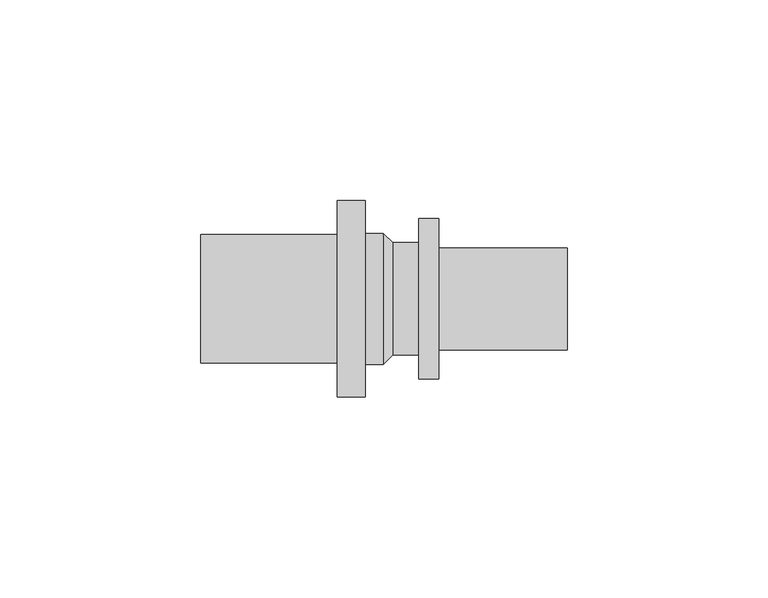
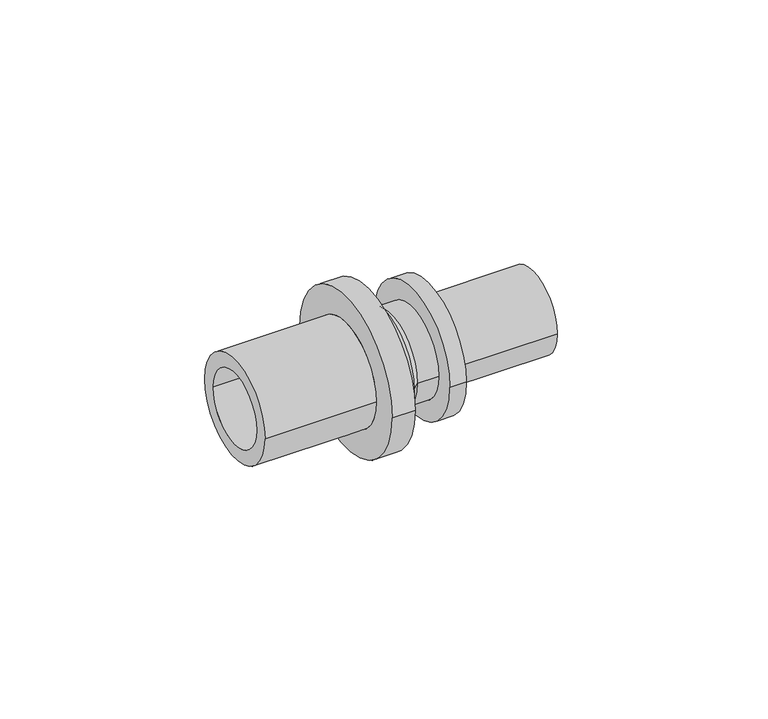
"""IFC4 building model written with IfcOpenShell, lengths in millimetres: pipe fitting geometry, RAUTITAN_Transition_LX : RTI LX Tr DE."""

from ifc_helpers import new_model, si_unit, frame, origin, place, context, project, spatial, polyline, circle_curve, source, transform, mapped, element, save
from ifc_brep_helpers import plane_surface, cylinder_surface, revolved_surface, advanced_brep


def pipe_fitting_efe7aa76(model_context):
    return source(origin(), model_context, "Body", "AdvancedBrep", [
        advanced_brep(
        [(-46.65, 11.5, 0.0), (-46.65, -11.5, 0.0), (-0.75, -11.5, 0.0), (-0.75, 11.5, 0.0), (-1.15, 16.3, 0.0), (-1.15, -16.3, 0.0), (-5.65, -16.3, 0.0), (-5.65, 16.3, 0.0), (1.15, 14.0, 0.0), (1.15, -14.0, 0.0), (7.65, 14.0, 0.0), (7.65, -14.0, 0.0), (12.65, 20.0, 0.0), (12.65, -20.0, 0.0), (7.65, -20.0, 0.0), (7.65, 20.0, 0.0), (44.65, 12.7, 0.0), (44.65, -12.7, 0.0), (12.65, -12.7, 0.0), (12.65, 12.7, 0.0), (0.75, 10.0, 0.0), (0.75, -10.0, 0.0), (44.65, -10.0, 0.0), (44.65, 10.0, 0.0), (-5.65, 24.5, 0.0), (-5.65, -24.5, 0.0), (-12.65, 16.0, 0.0), (-12.65, -16.0, 0.0), (-46.65, -16.0, 0.0), (-46.65, 16.0, 0.0), (-12.65, -24.5, 0.0), (-12.65, 24.5, 0.0)],
        [
            (0, 1, circle_curve(frame((-46.65, 0.0, 0.0), z_axis=(-1.0, 0.0, 0.0), x_axis=(0.0, -1.0, 0.0)), 11.5)),
            (1, 2),
            (2, 3, circle_curve(frame((-0.75, 0.0, 0.0), z_axis=(1.0, 0.0, 0.0), x_axis=(0.0, -1.0, 0.0)), 11.5)),
            (3, 0),
            (4, 5, circle_curve(frame((-1.15, 0.0, 0.0), z_axis=(-1.0, 0.0, 0.0), x_axis=(0.0, -1.0, 0.0)), 16.3)),
            (5, 6),
            (6, 7, circle_curve(frame((-5.65, 0.0, 0.0), z_axis=(1.0, 0.0, 0.0), x_axis=(0.0, -1.0, 0.0)), 16.3)),
            (7, 4),
            (8, 9, circle_curve(frame((1.15, 0.0, 0.0), z_axis=(-1.0, 0.0, 0.0), x_axis=(0.0, -1.0, 0.0)), 14.0)),
            (9, 5),
            (4, 8),
            (10, 11, circle_curve(frame((7.65, 0.0, 0.0), z_axis=(-1.0, 0.0, 0.0), x_axis=(0.0, -1.0, 0.0)), 14.0)),
            (11, 9),
            (8, 10),
            (12, 13, circle_curve(frame((12.65, 0.0, 0.0), z_axis=(-1.0, 0.0, 0.0), x_axis=(0.0, -1.0, 0.0)), 20.0)),
            (13, 14),
            (14, 15, circle_curve(frame((7.65, 0.0, 0.0), z_axis=(1.0, 0.0, 0.0), x_axis=(0.0, -1.0, 0.0)), 20.0)),
            (15, 12),
            (16, 17, circle_curve(frame((44.65, 0.0, 0.0), z_axis=(-1.0, 0.0, 0.0), x_axis=(0.0, -1.0, 0.0)), 12.7)),
            (17, 18),
            (18, 19, circle_curve(frame((12.65, 0.0, 0.0), z_axis=(1.0, 0.0, 0.0), x_axis=(0.0, -1.0, 0.0)), 12.7)),
            (19, 16),
            (20, 21, circle_curve(frame((0.75, 0.0, 0.0), z_axis=(-1.0, 0.0, 0.0), x_axis=(0.0, -1.0, 0.0)), 10.0)),
            (21, 22),
            (22, 23, circle_curve(frame((44.65, 0.0, 0.0), z_axis=(1.0, 0.0, 0.0), x_axis=(0.0, -1.0, 0.0)), 10.0)),
            (23, 20),
            (2, 21),
            (20, 3),
            (1, 0, circle_curve(frame((-46.65, 0.0, 0.0), z_axis=(-1.0, 0.0, 0.0), x_axis=(0.0, 1.0, 0.0)), 11.5)),
            (3, 2, circle_curve(frame((-0.75, 0.0, 0.0), z_axis=(1.0, 0.0, 0.0), x_axis=(0.0, 1.0, 0.0)), 11.5)),
            (24, 25, circle_curve(frame((-5.65, 0.0, 0.0), z_axis=(1.0, 0.0, 0.0), x_axis=(0.0, 1.0, 0.0)), 24.5)),
            (25, 24, circle_curve(frame((-5.65, 0.0, 0.0), z_axis=(1.0, 0.0, 0.0), x_axis=(0.0, -1.0, 0.0)), 24.5)),
            (6, 7, circle_curve(frame((-5.65, 0.0, 0.0), z_axis=(-1.0, 0.0, 0.0), x_axis=(0.0, 1.0, 0.0)), 16.3)),
            (5, 4, circle_curve(frame((-1.15, 0.0, 0.0), z_axis=(-1.0, 0.0, 0.0), x_axis=(0.0, 1.0, 0.0)), 16.3)),
            (9, 8, circle_curve(frame((1.15, 0.0, 0.0), z_axis=(-1.0, 0.0, 0.0), x_axis=(0.0, 1.0, 0.0)), 14.0)),
            (11, 10, circle_curve(frame((7.65, 0.0, 0.0), z_axis=(-1.0, 0.0, 0.0), x_axis=(0.0, 1.0, 0.0)), 14.0)),
            (14, 15, circle_curve(frame((7.65, 0.0, 0.0), z_axis=(-1.0, 0.0, 0.0), x_axis=(0.0, 1.0, 0.0)), 20.0)),
            (13, 12, circle_curve(frame((12.65, 0.0, 0.0), z_axis=(-1.0, 0.0, 0.0), x_axis=(0.0, 1.0, 0.0)), 20.0)),
            (18, 19, circle_curve(frame((12.65, 0.0, 0.0), z_axis=(-1.0, 0.0, 0.0), x_axis=(0.0, 1.0, 0.0)), 12.7)),
            (17, 16, circle_curve(frame((44.65, 0.0, 0.0), z_axis=(-1.0, 0.0, 0.0), x_axis=(0.0, 1.0, 0.0)), 12.7)),
            (22, 23, circle_curve(frame((44.65, 0.0, 0.0), z_axis=(-1.0, 0.0, 0.0), x_axis=(0.0, 1.0, 0.0)), 10.0)),
            (21, 20, circle_curve(frame((0.75, 0.0, 0.0), z_axis=(-1.0, 0.0, 0.0), x_axis=(0.0, 1.0, 0.0)), 10.0)),
            (26, 27, circle_curve(frame((-12.65, 0.0, 0.0), z_axis=(-1.0, 0.0, 0.0), x_axis=(0.0, -1.0, 0.0)), 16.0)),
            (27, 28),
            (28, 29, circle_curve(frame((-46.65, 0.0, 0.0), z_axis=(1.0, 0.0, 0.0), x_axis=(0.0, -1.0, 0.0)), 16.0)),
            (29, 26),
            (25, 30),
            (30, 31, circle_curve(frame((-12.65, 0.0, 0.0), z_axis=(1.0, 0.0, 0.0), x_axis=(0.0, -1.0, 0.0)), 24.5)),
            (31, 24),
            (28, 29, circle_curve(frame((-46.65, 0.0, 0.0), z_axis=(-1.0, 0.0, 0.0), x_axis=(0.0, 1.0, 0.0)), 16.0)),
            (27, 26, circle_curve(frame((-12.65, 0.0, 0.0), z_axis=(-1.0, 0.0, 0.0), x_axis=(0.0, 1.0, 0.0)), 16.0)),
            (30, 31, circle_curve(frame((-12.65, 0.0, 0.0), z_axis=(-1.0, 0.0, 0.0), x_axis=(0.0, 1.0, 0.0)), 24.5)),
        ],
        [
            revolved_surface(polyline([(-0.75, -11.5, 0.0), (-46.65, -11.5, 0.0)]), (0.0, 0.0, 0.0), (1.0, 0.0, 0.0)),
            cylinder_surface(frame((0.0, 0.0, 0.0), z_axis=(1.0, 0.0, 0.0), x_axis=(0.0, -1.0, 0.0)), 16.3),
            revolved_surface(polyline([(-1.15, -16.3, 0.0), (1.15, -14.0, 0.0)]), (0.0, 0.0, 0.0), (1.0, 0.0, 0.0)),
            cylinder_surface(frame((0.0, 0.0, 0.0), z_axis=(1.0, 0.0, 0.0), x_axis=(0.0, -1.0, 0.0)), 14.0),
            cylinder_surface(frame((0.0, 0.0, 0.0), z_axis=(1.0, 0.0, 0.0), x_axis=(0.0, -1.0, 0.0)), 20.0),
            cylinder_surface(frame((0.0, 0.0, 0.0), z_axis=(1.0, 0.0, 0.0), x_axis=(0.0, -1.0, 0.0)), 12.7),
            revolved_surface(polyline([(44.65, -10.0, 0.0), (0.75, -10.0, 0.0)]), (0.0, 0.0, 0.0), (1.0, 0.0, 0.0)),
            revolved_surface(polyline([(0.75, -10.0, 0.0), (-0.75, -11.5, 0.0)]), (0.0, 0.0, 0.0), (1.0, 0.0, 0.0)),
            revolved_surface(polyline([(-0.75, 11.5, 0.0), (-46.65, 11.5, 0.0)]), (0.0, 0.0, 0.0), (1.0, 0.0, 0.0)),
            plane_surface(frame((-5.65, 0.0, 0.0), z_axis=(1.0, 0.0, 0.0), x_axis=(0.0, 1.0, 0.0))),
            cylinder_surface(frame((0.0, 0.0, 0.0), z_axis=(1.0, 0.0, 0.0), x_axis=(0.0, 1.0, 0.0)), 16.3),
            revolved_surface(polyline([(-1.15, 16.3, 0.0), (1.15, 14.0, 0.0)]), (0.0, 0.0, 0.0), (1.0, 0.0, 0.0)),
            cylinder_surface(frame((0.0, 0.0, 0.0), z_axis=(1.0, 0.0, 0.0), x_axis=(0.0, 1.0, 0.0)), 14.0),
            plane_surface(frame((7.65, 0.0, 0.0), z_axis=(-1.0, 0.0, 0.0), x_axis=(0.0, 1.0, 0.0))),
            cylinder_surface(frame((0.0, 0.0, 0.0), z_axis=(1.0, 0.0, 0.0), x_axis=(0.0, 1.0, 0.0)), 20.0),
            plane_surface(frame((12.65, 0.0, 0.0), z_axis=(1.0, 0.0, 0.0), x_axis=(0.0, 1.0, 0.0))),
            cylinder_surface(frame((0.0, 0.0, 0.0), z_axis=(1.0, 0.0, 0.0), x_axis=(0.0, 1.0, 0.0)), 12.7),
            plane_surface(frame((44.65, 0.0, 0.0), z_axis=(1.0, 0.0, 0.0), x_axis=(0.0, 1.0, 0.0))),
            revolved_surface(polyline([(44.65, 10.0, 0.0), (0.75, 10.0, 0.0)]), (0.0, 0.0, 0.0), (1.0, 0.0, 0.0)),
            revolved_surface(polyline([(0.75, 10.0, 0.0), (-0.75, 11.5, 0.0)]), (0.0, 0.0, 0.0), (1.0, 0.0, 0.0)),
            cylinder_surface(frame((0.0, 0.0, 0.0), z_axis=(1.0, 0.0, 0.0), x_axis=(0.0, -1.0, 0.0)), 16.0),
            cylinder_surface(frame((0.0, 0.0, 0.0), z_axis=(1.0, 0.0, 0.0), x_axis=(0.0, -1.0, 0.0)), 24.5),
            plane_surface(frame((-46.65, 0.0, 0.0), z_axis=(-1.0, 0.0, 0.0), x_axis=(0.0, 1.0, 0.0))),
            cylinder_surface(frame((0.0, 0.0, 0.0), z_axis=(1.0, 0.0, 0.0), x_axis=(0.0, 1.0, 0.0)), 16.0),
            plane_surface(frame((-12.65, 0.0, 0.0), z_axis=(-1.0, 0.0, 0.0), x_axis=(0.0, 1.0, 0.0))),
            cylinder_surface(frame((0.0, 0.0, 0.0), z_axis=(1.0, 0.0, 0.0), x_axis=(0.0, 1.0, 0.0)), 24.5),
        ],
        [
            (0, [[1, 2, 3, 4]]),
            (1, [[5, 6, 7, 8]]),
            (2, [[9, 10, -5, 11]]),
            (3, [[12, 13, -9, 14]]),
            (4, [[15, 16, 17, 18]]),
            (5, [[19, 20, 21, 22]]),
            (6, [[23, 24, 25, 26]]),
            (7, [[-3, 27, -23, 28]]),
            (8, [[29, -4, 30, -2]]),
            (9, [[31, 32], [33, -7]]),
            (10, [[34, -8, -33, -6]]),
            (11, [[35, -11, -34, -10]]),
            (12, [[36, -14, -35, -13]]),
            (13, [[37, -17], [-36, -12]]),
            (14, [[38, -18, -37, -16]]),
            (15, [[-38, -15], [39, -21]]),
            (16, [[40, -22, -39, -20]]),
            (17, [[-40, -19], [41, -25]]),
            (18, [[42, -26, -41, -24]]),
            (19, [[-30, -28, -42, -27]]),
            (20, [[43, 44, 45, 46]]),
            (21, [[-32, 47, 48, 49]]),
            (22, [[50, -45], [-29, -1]]),
            (23, [[51, -46, -50, -44]]),
            (24, [[52, -48], [-51, -43]]),
            (25, [[-31, -49, -52, -47]]),
        ],
    ),
    ])


if __name__ == "__main__":
    model = new_model("IFC4")
    model_context = context("Model", 3, world=origin())
    ifc_project = project(units=[si_unit("LENGTHUNIT", "METRE", prefix="MILLI")], contexts=[model_context])
    site = spatial("IfcSite", under=ifc_project)
    building = spatial("IfcBuilding", under=site)
    placement = place(None, origin())
    pipe_fitting_shape = pipe_fitting_efe7aa76(model_context)
    element("IfcPipeFitting", 1, ObjectType="RAUTITAN_Transition_LX : RTI LX Tr DE", at=placement, inside=building, context=model_context, shape_type="MappedRepresentation", body=[
        mapped(pipe_fitting_shape, transform((0.0, 0.0, 0.0), x_axis=(1.0, 0.0, 0.0), y_axis=(0.0, 1.0, 0.0), z_axis=(0.0, 0.0, 1.0))),
    ])
    save(model, "model.ifc")
